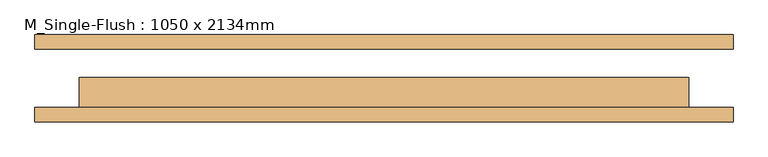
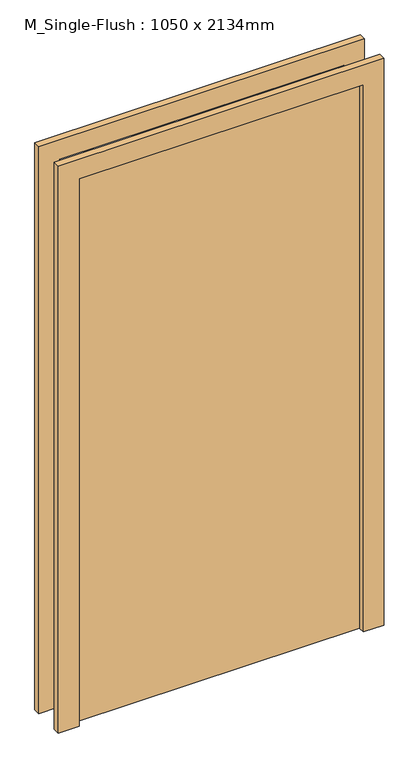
"""IFC4 building model written with IfcOpenShell, lengths in millimetres: door geometry, M_Single-Flush : 1050 x 2134mm."""

from ifc_helpers import new_model, si_unit, frame, origin, origin_with_axes, place, context, project, spatial, polyline, outline, extrude, source, transform, mapped, element, save


def m_single_flush_1050_x_2134mm_0959f944(model_context):
    return source(origin(), model_context, "Body", "SweptSolid", [
        extrude(outline(polyline([(2210.0, -601.0), (0.0, -601.0), (0.0, -525.0), (2134.0, -525.0), (2134.0, 525.0), (0.0, 525.0), (0.0, 601.0), (2210.0, 601.0), (2210.0, -601.0)])), frame((0.0, -75.0, 0.0), z_axis=(0.0, 1.0, 0.0), x_axis=(0.0, 0.0, 1.0)), (0.0, 0.0, 1.0), 25.0),
        extrude(outline(polyline([(2210.0, 601.0), (2210.0, -601.0), (0.0, -601.0), (0.0, -525.0), (2134.0, -525.0), (2134.0, 525.0), (0.0, 525.0), (0.0, 601.0), (2210.0, 601.0)])), frame((0.0, 50.0, 0.0), z_axis=(0.0, 1.0, 0.0), x_axis=(0.0, 0.0, 1.0)), (0.0, 0.0, 1.0), 25.0),
        extrude(outline(polyline([(525.0, 1.0), (525.0, -50.0), (-525.0, -50.0), (-525.0, 1.0), (525.0, 1.0)])), origin_with_axes(), (0.0, 0.0, 1.0), 2134.0),
    ])


if __name__ == "__main__":
    model = new_model("IFC4")
    model_context = context("Model", 3, world=origin())
    ifc_project = project(units=[si_unit("LENGTHUNIT", "METRE", prefix="MILLI")], contexts=[model_context])
    site = spatial("IfcSite", under=ifc_project)
    building = spatial("IfcBuilding", under=site)
    placement = place(None, origin())
    m_single_flush_1050_x_2134mm_shape = m_single_flush_1050_x_2134mm_0959f944(model_context)
    element("IfcDoor", 1, ObjectType="M_Single-Flush : 1050 x 2134mm", at=placement, inside=building, context=model_context, shape_type="MappedRepresentation", body=[
        mapped(m_single_flush_1050_x_2134mm_shape, transform((0.0, 0.0, 0.0), x_axis=(1.0, 0.0, 0.0), y_axis=(0.0, 1.0, 0.0), z_axis=(0.0, 0.0, 1.0))),
    ])
    save(model, "model.ifc")
